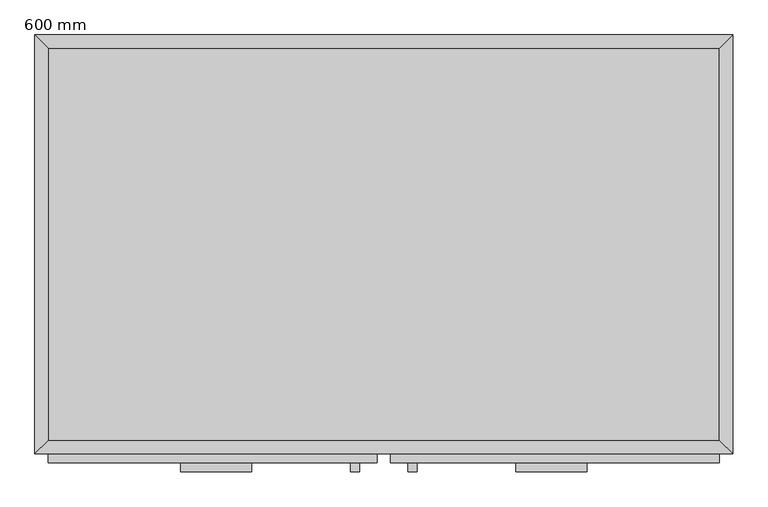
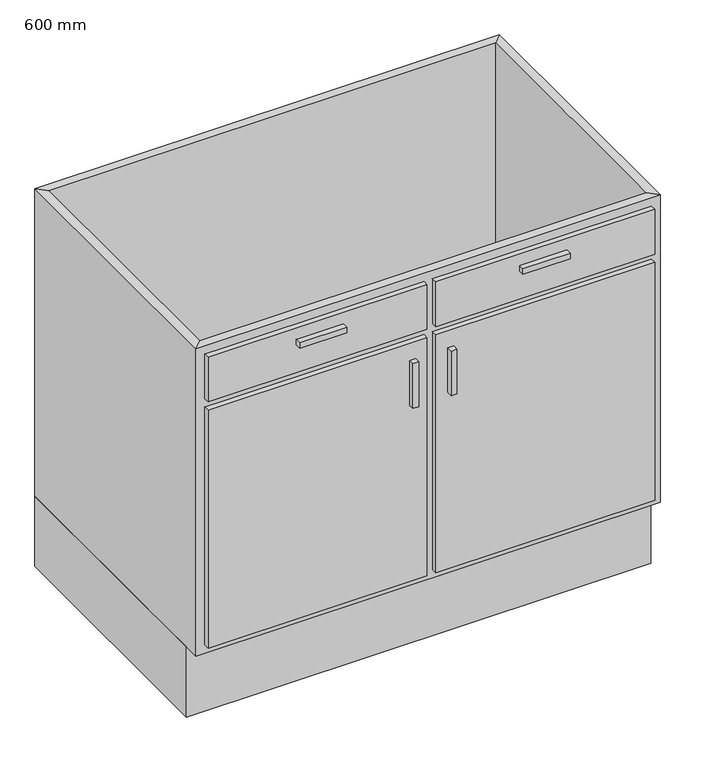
"""IFC4 building model written with IfcOpenShell, lengths in millimetres: furniture geometry, Armario base-Puerta doble y 2 cajones : 600 mm."""

from ifc_helpers import new_model, si_unit, frame, origin, origin_with_axes, place, context, project, spatial, polyline, outline, extrude, faceted_brep, source, transform, mapped, element, save


def furniture_600_mm_683f1335(model_context):
    return source(origin(), model_context, "Body", "SolidModel", [
        extrude(outline(polyline([(499.6877049, -19.05), (499.6877049, -580.95), (-462.2122951, -580.95), (-462.2122951, -19.05), (499.6877049, -19.05)])), frame((0.0, 0.0, 160.0), z_axis=(0.0, 0.0, 1.0), x_axis=(1.0, 0.0, 0.0)), (0.0, 0.0, 1.0), 19.05),
        faceted_brep([(499.6877049, -580.95, 860.0), (499.6877049, -580.95, 160.0), (-462.2122951, -580.95, 160.0), (-462.2122951, -580.95, 860.0), (518.7377049, -600.0, 860.0), (-481.2622951, -600.0, 860.0), (518.7377049, -600.0, 160.0), (-481.2622951, -600.0, 160.0), (-462.2122951, -19.05, 160.0), (-462.2122951, -19.05, 860.0), (-481.2622951, 0.0, 860.0), (-481.2622951, 0.0, 160.0), (499.6877049, -19.05, 160.0), (499.6877049, -19.05, 860.0), (518.7377049, 0.0, 860.0), (518.7377049, 0.0, 160.0)], [[[0, 1, 2, 3]], [[4, 0, 3, 5]], [[6, 4, 5, 7]], [[1, 6, 7, 2]], [[3, 2, 8, 9]], [[5, 3, 9, 10]], [[7, 5, 10, 11]], [[2, 7, 11, 8]], [[9, 8, 12, 13]], [[10, 9, 13, 14]], [[11, 10, 14, 15]], [[8, 11, 15, 12]], [[13, 12, 1, 0]], [[14, 13, 0, 4]], [[15, 14, 4, 6]], [[12, 15, 6, 1]]]),
        extrude(outline(polyline([(518.7377049, 0.0), (518.7377049, -565.0), (-481.2622951, -565.0), (-481.2622951, 0.0), (518.7377049, 0.0)])), origin_with_axes(), (0.0, 0.0, 1.0), 160.0),
        extrude(outline(polyline([(9.2127049, -612.7), (-462.2122951, -612.7), (-462.2122951, -600.0), (9.2127049, -600.0), (9.2127049, -612.7)])), frame((0.0, 0.0, 739.35), z_axis=(0.0, 0.0, 1.0), x_axis=(1.0, 0.0, 0.0)), (0.0, 0.0, 1.0), 101.6),
        extrude(outline(polyline([(499.6877049, -612.7), (28.2627049, -612.7), (28.2627049, -600.0), (499.6877049, -600.0), (499.6877049, -612.7)])), frame((0.0, 0.0, 739.35), z_axis=(0.0, 0.0, 1.0), x_axis=(1.0, 0.0, 0.0)), (0.0, 0.0, 1.0), 101.6),
        extrude(outline(polyline([(9.2127049, -612.7), (-462.2122951, -612.7), (-462.2122951, -600.0), (9.2127049, -600.0), (9.2127049, -612.7)])), frame((0.0, 0.0, 179.05), z_axis=(0.0, 0.0, 1.0), x_axis=(1.0, 0.0, 0.0)), (0.0, 0.0, 1.0), 541.25),
        extrude(outline(polyline([(499.6877049, -612.7), (28.2627049, -612.7), (28.2627049, -600.0), (499.6877049, -600.0), (499.6877049, -612.7)])), frame((0.0, 0.0, 179.05), z_axis=(0.0, 0.0, 1.0), x_axis=(1.0, 0.0, 0.0)), (0.0, 0.0, 1.0), 541.25),
        extrude(outline(polyline([(-170.9372951, -625.4), (-272.5372951, -625.4), (-272.5372951, -612.7), (-170.9372951, -612.7), (-170.9372951, -625.4)])), frame((0.0, 0.0, 802.85), z_axis=(0.0, 0.0, 1.0), x_axis=(1.0, 0.0, 0.0)), (0.0, 0.0, 1.0), 12.7),
        extrude(outline(polyline([(310.0127049, -625.4), (208.4127049, -625.4), (208.4127049, -612.7), (310.0127049, -612.7), (310.0127049, -625.4)])), frame((0.0, 0.0, 802.85), z_axis=(0.0, 0.0, 1.0), x_axis=(1.0, 0.0, 0.0)), (0.0, 0.0, 1.0), 12.7),
        extrude(outline(polyline([(-16.1872951, -625.4), (-28.8872951, -625.4), (-28.8872951, -612.7), (-16.1872951, -612.7), (-16.1872951, -625.4)])), frame((0.0, 0.0, 580.6), z_axis=(0.0, 0.0, 1.0), x_axis=(1.0, 0.0, 0.0)), (0.0, 0.0, 1.0), 101.6),
        extrude(outline(polyline([(66.3627049, -625.4), (53.6627049, -625.4), (53.6627049, -612.7), (66.3627049, -612.7), (66.3627049, -625.4)])), frame((0.0, 0.0, 580.6), z_axis=(0.0, 0.0, 1.0), x_axis=(1.0, 0.0, 0.0)), (0.0, 0.0, 1.0), 101.6),
    ])


if __name__ == "__main__":
    model = new_model("IFC4")
    model_context = context("Model", 3, world=origin())
    ifc_project = project(units=[si_unit("LENGTHUNIT", "METRE", prefix="MILLI")], contexts=[model_context])
    site = spatial("IfcSite", under=ifc_project)
    building = spatial("IfcBuilding", under=site)
    placement = place(None, origin())
    furniture_600_mm_shape = furniture_600_mm_683f1335(model_context)
    element("IfcFurniture", 1, ObjectType="Armario base-Puerta doble y 2 cajones : 600 mm", at=placement, inside=building, context=model_context, shape_type="MappedRepresentation", body=[
        mapped(furniture_600_mm_shape, transform((0.0, 0.0, 0.0), x_axis=(1.0, 0.0, 0.0), y_axis=(0.0, 1.0, 0.0), z_axis=(0.0, 0.0, 1.0))),
    ])
    save(model, "model.ifc")
